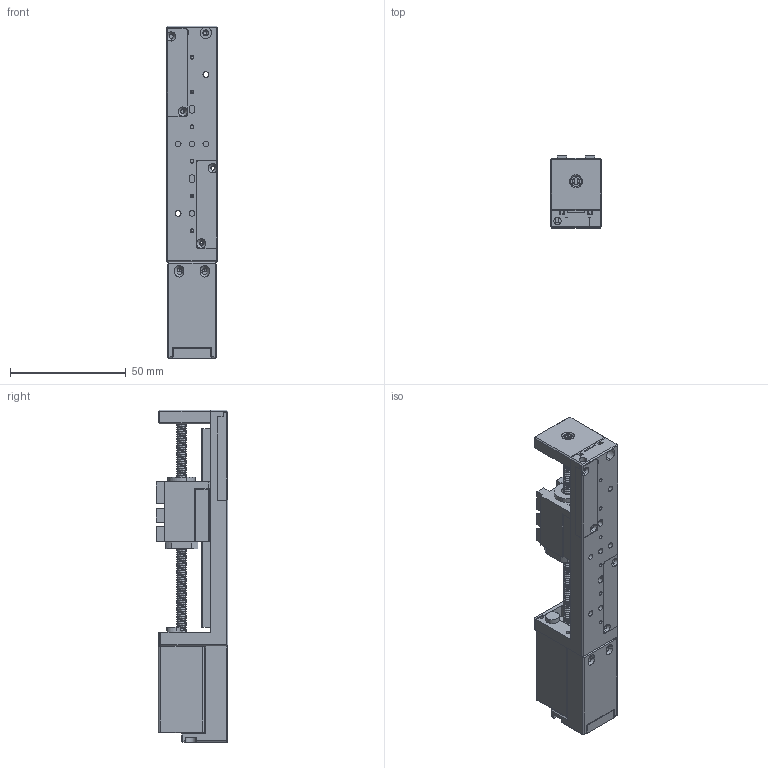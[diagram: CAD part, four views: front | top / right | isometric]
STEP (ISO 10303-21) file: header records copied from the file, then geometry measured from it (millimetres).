
FILE_DESCRIPTION (( 'STEP AP203' ), '1' );
FILE_NAME ('EML20A38-B0150.STEP', '2024-03-06T02:49:52', ( '' ), ( '' ), 'SwSTEP 2.0', 'SolidWorks 2023', '' );
FILE_SCHEMA (( 'CONFIG_CONTROL_DESIGN' ));
Length unit declared in the file: millimetre
Products named in the file (17): 20A38端子盖; 20单边桥; 20后导光片; 28-42光电传感器; 20前导光片; 20-50光电经济模组基座; XY-1064; EML20A38-B0150; 0401螺母; MGN7C-86滑轨; 28-42端子线路板; 防撞牛筋柱3-6; JFM-0304-5; 20经济模组轴承座; 20A38-GZ0401-102电机; 20光电安装座; MGN7C 滑块
Assembly tree (18 placements, depth 2):
  EML20A38-B0150
    20-50光电经济模组基座
    MGN7C-86滑轨
    MGN7C 滑块
    20经济模组轴承座
    20光电安装座
    20A38-GZ0401-102电机
    0401螺母
    20单边桥
    20前导光片
    20后导光片
    20A38端子盖
    防撞牛筋柱3-6  x2
    JFM-0304-5
    XY-1064
    28-42光电传感器  x2
    28-42端子线路板
Bounding box: 22 x 31 x 143.5 mm (x, y, z)
Volume: 48231 mm3; surface area: 35733.8 mm2
Topology: 18 solids, 18 shells, 1070 faces, 2955 edges, 1881 vertices
Faces by surface type: cylinder 538, plane 418, cone 83, torus 24, sphere 4, bspline 3
Entity records: 45643 total; most frequent: CARTESIAN_POINT 17806, ORIENTED_EDGE 5650, DIRECTION 5306, EDGE_CURVE 2825, AXIS2_PLACEMENT_3D 1862, VERTEX_POINT 1833, VECTOR 1582, LINE 1582
